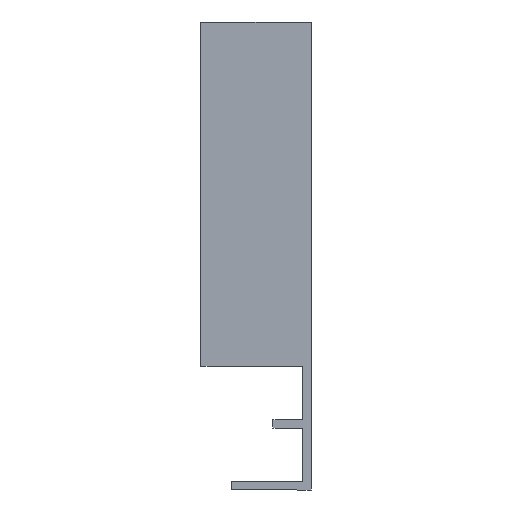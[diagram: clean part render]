
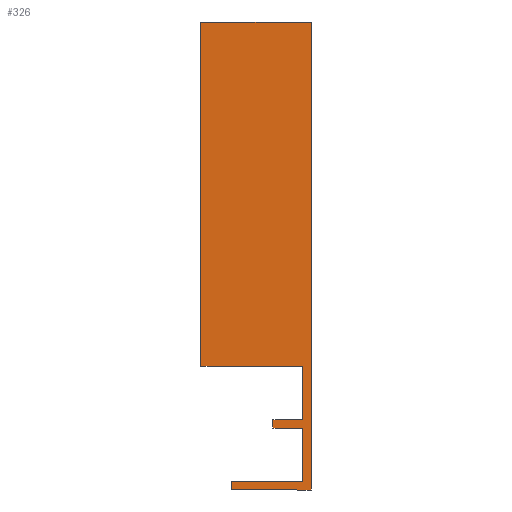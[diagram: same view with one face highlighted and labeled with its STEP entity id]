
A CAD part, left-side view. The second image highlights one B-rep face of the part: STEP entity #326.
In plain terms, the highlighted planar face has unit normal (-1, 0, 0).
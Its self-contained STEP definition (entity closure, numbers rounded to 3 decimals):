
#6 = EDGE_LOOP ( 'NONE', ( #32, #33, #34, #36, #35, #24, #37, #38, #39, #40, #41, #42 ) ) ;
#24 = ORIENTED_EDGE ( 'NONE', *, *, #515, .T. ) ;
#32 = ORIENTED_EDGE ( 'NONE', *, *, #532, .T. ) ;
#33 = ORIENTED_EDGE ( 'NONE', *, *, #519, .T. ) ;
#34 = ORIENTED_EDGE ( 'NONE', *, *, #524, .T. ) ;
#35 = ORIENTED_EDGE ( 'NONE', *, *, #490, .T. ) ;
#36 = ORIENTED_EDGE ( 'NONE', *, *, #511, .T. ) ;
#37 = ORIENTED_EDGE ( 'NONE', *, *, #535, .T. ) ;
#38 = ORIENTED_EDGE ( 'NONE', *, *, #480, .T. ) ;
#39 = ORIENTED_EDGE ( 'NONE', *, *, #507, .T. ) ;
#40 = ORIENTED_EDGE ( 'NONE', *, *, #523, .T. ) ;
#41 = ORIENTED_EDGE ( 'NONE', *, *, #488, .T. ) ;
#42 = ORIENTED_EDGE ( 'NONE', *, *, #504, .T. ) ;
#107 = VERTEX_POINT ( 'NONE', #120 ) ;
#115 = VERTEX_POINT ( 'NONE', #457 ) ;
#117 = CARTESIAN_POINT ( 'NONE',  ( -485.5, -4.3, -16.7 ) ) ;
#120 = CARTESIAN_POINT ( 'NONE',  ( -485.5, 0., -7.75 ) ) ;
#121 = VERTEX_POINT ( 'NONE', #117 ) ;
#122 = VERTEX_POINT ( 'NONE', #456 ) ;
#159 = PLANE ( 'NONE',  #516 ) ;
#162 = CARTESIAN_POINT ( 'NONE',  ( -485.5, 6., -16.7 ) ) ;
#168 = DIRECTION ( 'NONE',  ( -1., 0., 0. ) ) ;
#169 = DIRECTION ( 'NONE',  ( 0., -1., 0. ) ) ;
#173 = CARTESIAN_POINT ( 'NONE',  ( -485.5, 6., -16.7 ) ) ;
#188 = CARTESIAN_POINT ( 'NONE',  ( -485.5, -4.3, -7.75 ) ) ;
#191 = CARTESIAN_POINT ( 'NONE',  ( -485.5, 10.4, 0. ) ) ;
#192 = CARTESIAN_POINT ( 'NONE',  ( -485.5, -4.3, 0. ) ) ;
#196 = CARTESIAN_POINT ( 'NONE',  ( -485.5, 0., -8.95 ) ) ;
#198 = CARTESIAN_POINT ( 'NONE',  ( -485.5, -4.3, -8.95 ) ) ;
#199 = CARTESIAN_POINT ( 'NONE',  ( -485.5, 6., -17.9 ) ) ;
#202 = CARTESIAN_POINT ( 'NONE',  ( -485.5, -5.5, 49.7 ) ) ;
#220 = CARTESIAN_POINT ( 'NONE',  ( -485.5, -4.3, 0. ) ) ;
#223 = DIRECTION ( 'NONE',  ( 0., 0., -1. ) ) ;
#224 = CARTESIAN_POINT ( 'NONE',  ( -485.5, 0., -8.95 ) ) ;
#234 = DIRECTION ( 'NONE',  ( 0., -1., 0. ) ) ;
#235 = CARTESIAN_POINT ( 'NONE',  ( -485.5, -5.5, 49.7 ) ) ;
#236 = DIRECTION ( 'NONE',  ( 0., 1., 0. ) ) ;
#251 = CARTESIAN_POINT ( 'NONE',  ( -485.5, -4.3, -8.95 ) ) ;
#255 = DIRECTION ( 'NONE',  ( 0., 0., -1. ) ) ;
#258 = CARTESIAN_POINT ( 'NONE',  ( -485.5, -4.3, -7.75 ) ) ;
#259 = DIRECTION ( 'NONE',  ( 0., 1., 0. ) ) ;
#262 = CARTESIAN_POINT ( 'NONE',  ( -485.5, -5.5, -17.9 ) ) ;
#264 = CARTESIAN_POINT ( 'NONE',  ( -485.5, 6., -16.7 ) ) ;
#265 = DIRECTION ( 'NONE',  ( 0., 0., 1. ) ) ;
#266 = CARTESIAN_POINT ( 'NONE',  ( -485.5, 10.4, 49.7 ) ) ;
#267 = DIRECTION ( 'NONE',  ( 0., 0., -1. ) ) ;
#271 = DIRECTION ( 'NONE',  ( 0., 0., -1. ) ) ;
#276 = CARTESIAN_POINT ( 'NONE',  ( -485.5, 0., -7.75 ) ) ;
#277 = DIRECTION ( 'NONE',  ( 0., 0., -1. ) ) ;
#278 = CARTESIAN_POINT ( 'NONE',  ( -485.5, 6., -17.9 ) ) ;
#279 = DIRECTION ( 'NONE',  ( 0., -1., 0. ) ) ;
#285 = CARTESIAN_POINT ( 'NONE',  ( -485.5, -4.3, -16.7 ) ) ;
#286 = DIRECTION ( 'NONE',  ( 0., 1., 0. ) ) ;
#289 = CARTESIAN_POINT ( 'NONE',  ( -485.5, 10.4, 0. ) ) ;
#290 = DIRECTION ( 'NONE',  ( 0., -1., 0. ) ) ;
#326 = ADVANCED_FACE ( 'NONE', ( #340 ), #159, .T. ) ;
#340 = FACE_OUTER_BOUND ( 'NONE', #6, .T. ) ;
#351 = LINE ( 'NONE', #220, #362 ) ;
#362 = VECTOR ( 'NONE', #223, 1000. ) ;
#368 = LINE ( 'NONE', #224, #372 ) ;
#372 = VECTOR ( 'NONE', #234, 1000. ) ;
#374 = LINE ( 'NONE', #235, #375 ) ;
#375 = VECTOR ( 'NONE', #236, 1000. ) ;
#383 = LINE ( 'NONE', #251, #392 ) ;
#385 = VECTOR ( 'NONE', #259, 1000. ) ;
#391 = LINE ( 'NONE', #258, #385 ) ;
#392 = VECTOR ( 'NONE', #255, 1000. ) ;
#393 = LINE ( 'NONE', #262, #401 ) ;
#394 = LINE ( 'NONE', #264, #407 ) ;
#401 = VECTOR ( 'NONE', #265, 1000. ) ;
#403 = LINE ( 'NONE', #266, #404 ) ;
#404 = VECTOR ( 'NONE', #267, 1000. ) ;
#407 = VECTOR ( 'NONE', #271, 1000. ) ;
#412 = LINE ( 'NONE', #276, #413 ) ;
#413 = VECTOR ( 'NONE', #277, 1000. ) ;
#414 = LINE ( 'NONE', #278, #415 ) ;
#415 = VECTOR ( 'NONE', #279, 1000. ) ;
#417 = LINE ( 'NONE', #285, #418 ) ;
#418 = VECTOR ( 'NONE', #286, 1000. ) ;
#421 = LINE ( 'NONE', #289, #422 ) ;
#422 = VECTOR ( 'NONE', #290, 1000. ) ;
#442 = VERTEX_POINT ( 'NONE', #173 ) ;
#444 = VERTEX_POINT ( 'NONE', #191 ) ;
#445 = VERTEX_POINT ( 'NONE', #192 ) ;
#447 = VERTEX_POINT ( 'NONE', #188 ) ;
#450 = VERTEX_POINT ( 'NONE', #196 ) ;
#452 = VERTEX_POINT ( 'NONE', #198 ) ;
#453 = VERTEX_POINT ( 'NONE', #199 ) ;
#456 = CARTESIAN_POINT ( 'NONE',  ( -485.5, 10.4, 49.7 ) ) ;
#457 = CARTESIAN_POINT ( 'NONE',  ( -485.5, -5.5, -17.9 ) ) ;
#458 = VERTEX_POINT ( 'NONE', #202 ) ;
#480 = EDGE_CURVE ( 'NONE', #445, #447, #351, .T. ) ;
#488 = EDGE_CURVE ( 'NONE', #450, #452, #368, .T. ) ;
#490 = EDGE_CURVE ( 'NONE', #458, #122, #374, .T. ) ;
#504 = EDGE_CURVE ( 'NONE', #452, #121, #383, .T. ) ;
#507 = EDGE_CURVE ( 'NONE', #447, #107, #391, .T. ) ;
#511 = EDGE_CURVE ( 'NONE', #115, #458, #393, .T. ) ;
#515 = EDGE_CURVE ( 'NONE', #122, #444, #403, .T. ) ;
#516 = AXIS2_PLACEMENT_3D ( 'NONE', #162, #168, #169 ) ;
#519 = EDGE_CURVE ( 'NONE', #442, #453, #394, .T. ) ;
#523 = EDGE_CURVE ( 'NONE', #107, #450, #412, .T. ) ;
#524 = EDGE_CURVE ( 'NONE', #453, #115, #414, .T. ) ;
#532 = EDGE_CURVE ( 'NONE', #121, #442, #417, .T. ) ;
#535 = EDGE_CURVE ( 'NONE', #444, #445, #421, .T. ) ;
